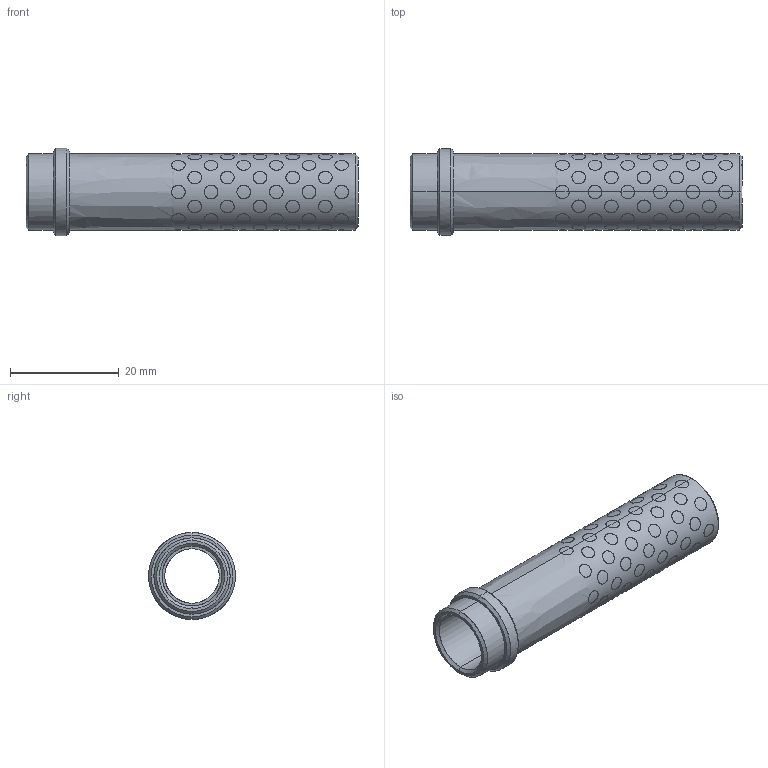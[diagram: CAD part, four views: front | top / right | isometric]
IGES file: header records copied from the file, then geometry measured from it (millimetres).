
Start section: START RECORD GO HERE.
Global section: file name: G31210056.igs; native system: DASSAULT SYSTEMES CATIA V5 R20 - www.3ds.com; preprocessor: CATIA Version 5 Release 20 ; author: r.borello; organization: CFTORINO; date: 20190624.122127; units: millimetre
Bounding box: 61 x 16 x 16 mm (x, y, z)
Surface area: 7643.8 mm2 (no closed solid volume)
Topology: 0 solids, 0 shells, 579 faces, 2508 edges, 2508 vertices
Faces by surface type: revolution 574, plane 5
